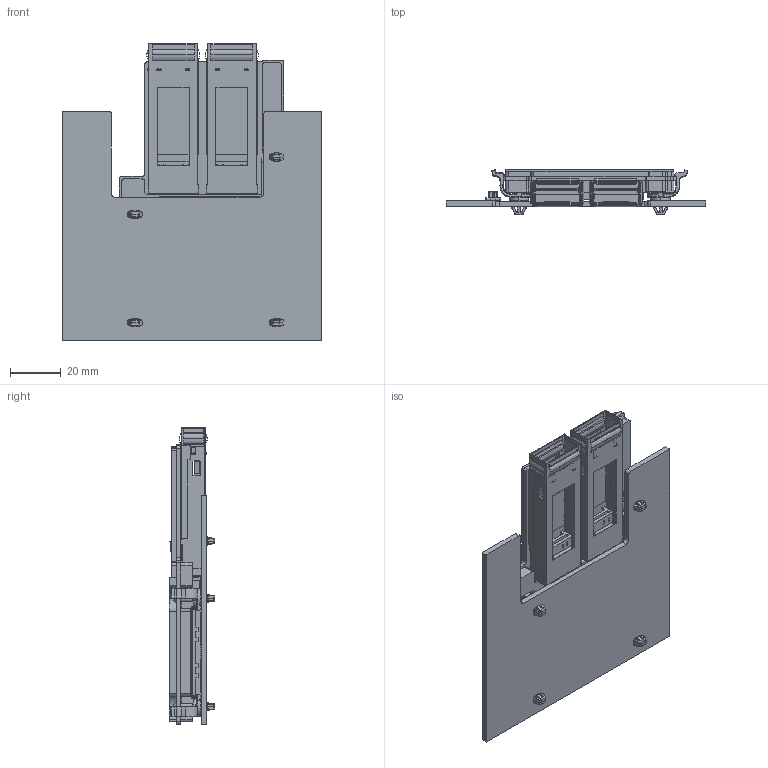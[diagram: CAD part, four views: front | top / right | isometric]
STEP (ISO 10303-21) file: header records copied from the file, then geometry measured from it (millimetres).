
FILE_DESCRIPTION((''),'2;1');
FILE_NAME('OCP-MZ-2_0-BD-ASSY_1X4SFP_8MM_ASM','2015-10-23T',('95030616'),(''),'PRO/ENGINEER BY PARAMETRIC TECHNOLOGY CORPORATION, 2013040','PRO/ENGINEER BY PARAMETRIC TECHNOLOGY CORPORATION, 2013040','');
FILE_SCHEMA(('AUTOMOTIVE_DESIGN { 1 0 10303 214 1 1 1 1 }'));
Products named in the file (20): OCP-2_0-BOARD_2; F01-LED-EVERLIGHT; FCI-P61083-124X2XXX_2; BTM-KEEPOUT-2MM; BTM-KEEPOUT-2_9MM; TOP-KEEPOUT-4_5MM; TOP-KEEPOUT-4_5MM-3; TOP-KEEPOUT-4MM; TOP-KEEPOUT-4MM-2; TOP-KEEPOUT-7_5MM; PORTION_MB_LEOPARD_E1_FILLED; FCI_61082_081402LF_LEOPARD_E1; CN120_GPN2_0-8_SMD_H_F-E1; 64POS-REC1; ASSY_PORTION_MB_LEOPARD_E1_ASM__ASM; F06-MEZZ-LATCH-LEFT-8MM; F06-MEZZ-LATCH-RIGHT-8MM; M-U90-A111-1001-REVT1; M-FS1-E38-X0M0-X0-REVT1; OCP-MZ-2_0-BD-ASSY_1X4SFP_8MM_ASM
Assembly tree (26 placements, depth 3):
  OCP-MZ-2_0-BD-ASSY_1X4SFP_8MM_ASM
    OCP-2_0-BOARD_2
    F01-LED-EVERLIGHT  x4
    FCI-P61083-124X2XXX_2
    BTM-KEEPOUT-2MM
    BTM-KEEPOUT-2_9MM
    TOP-KEEPOUT-4_5MM
    TOP-KEEPOUT-4_5MM-3
    TOP-KEEPOUT-4MM
    TOP-KEEPOUT-4MM-2
    TOP-KEEPOUT-7_5MM
    ASSY_PORTION_MB_LEOPARD_E1_ASM__ASM
      PORTION_MB_LEOPARD_E1_FILLED
      FCI_61082_081402LF_LEOPARD_E1
      CN120_GPN2_0-8_SMD_H_F-E1
      64POS-REC1
    F06-MEZZ-LATCH-LEFT-8MM
    F06-MEZZ-LATCH-RIGHT-8MM  x3
    M-U90-A111-1001-REVT1  x2
    M-FS1-E38-X0M0-X0-REVT1  x2
Bounding box: 101.72 x 17.77 x 116.55 mm (x, y, z)
Volume: 81205.5 mm3; surface area: 83907.6 mm2
Topology: 25 solids, 25 shells, 8898 faces, 25132 edges, 16095 vertices
Faces by surface type: plane 6785, cylinder 1485, bspline 357, sphere 123, cone 112, torus 36
Entity records: 254889 total; most frequent: CARTESIAN_POINT 50337, ORIENTED_EDGE 38502, DIRECTION 33471, EDGE_CURVE 19251, VECTOR 17027, LINE 17027, VERTEX_POINT 12330, AXIS2_PLACEMENT_3D 8222
